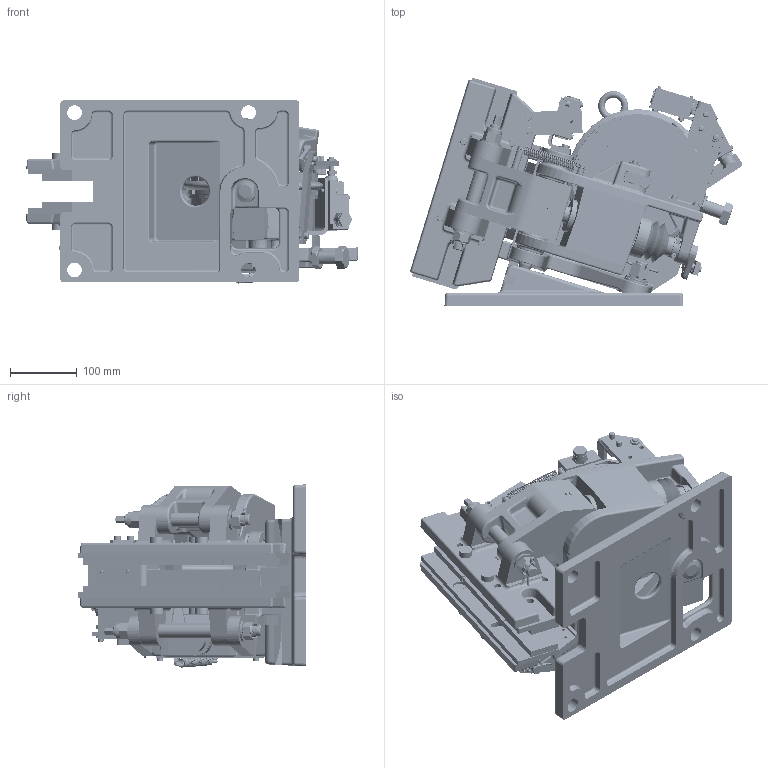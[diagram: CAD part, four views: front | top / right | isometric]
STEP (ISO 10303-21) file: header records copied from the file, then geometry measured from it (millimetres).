
FILE_DESCRIPTION((''),'2;1');
FILE_NAME('ASM0001_ASM','2026-01-07T11:56:58',('MAPM'),(''),'CREO PARAMETRIC BY PTC INC, 2025102','CREO PARAMETRIC BY PTC INC, 2025102','');
FILE_SCHEMA(('CONFIG_CONTROL_DESIGN','SHAPE_APPEARANCE_LAYERS_GROUPS'));
Products named in the file (8): DA_400_FEA_1_1; DA_400_FEA_1_3; DA_400_FEA_1_5; DA_400_FEA_1_7; DA_400_FEA_1_8; DA_400_FEA_1_9; DA_400_FEA_1_11; ASM0001_ASM
Assembly tree (7 placements, depth 2):
  ASM0001_ASM
    DA_400_FEA_1_1
    DA_400_FEA_1_3
    DA_400_FEA_1_5
    DA_400_FEA_1_7
    DA_400_FEA_1_8
    DA_400_FEA_1_9
    DA_400_FEA_1_11
Bounding box: 496.03 x 341.54 x 273.9 mm (x, y, z)
Volume: 8563883 mm3; surface area: 1648254.1 mm2
Topology: 7 solids, 7 shells, 6000 faces, 15483 edges, 9885 vertices
Faces by surface type: plane 3033, cylinder 1654, cone 425, bspline 396, torus 250, extrusion 156, sphere 86
Entity records: 297728 total; most frequent: CARTESIAN_POINT 107261, ORIENTED_EDGE 30708, DIRECTION 28923, PRESENTATION_STYLE_ASSIGNMENT 15361, STYLED_ITEM 15361, CURVE_STYLE 15354, EDGE_CURVE 15354, AXIS2_PLACEMENT_3D 10441
